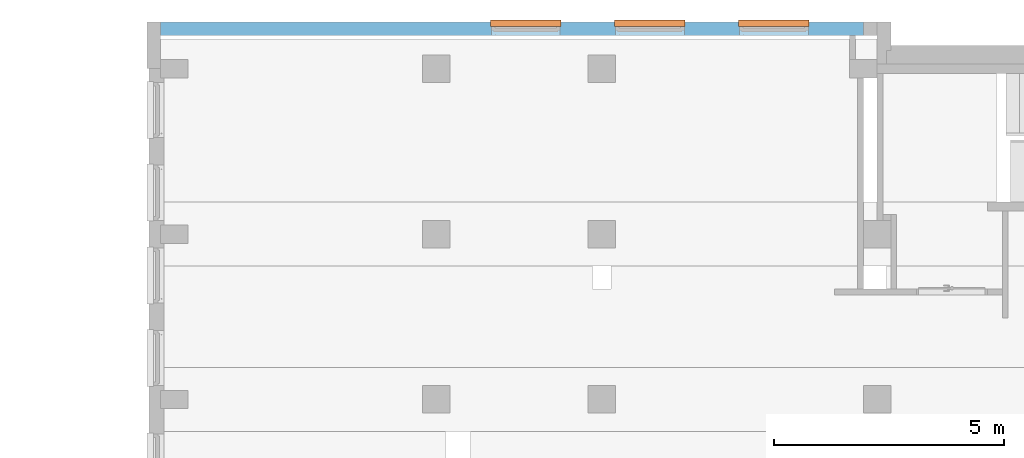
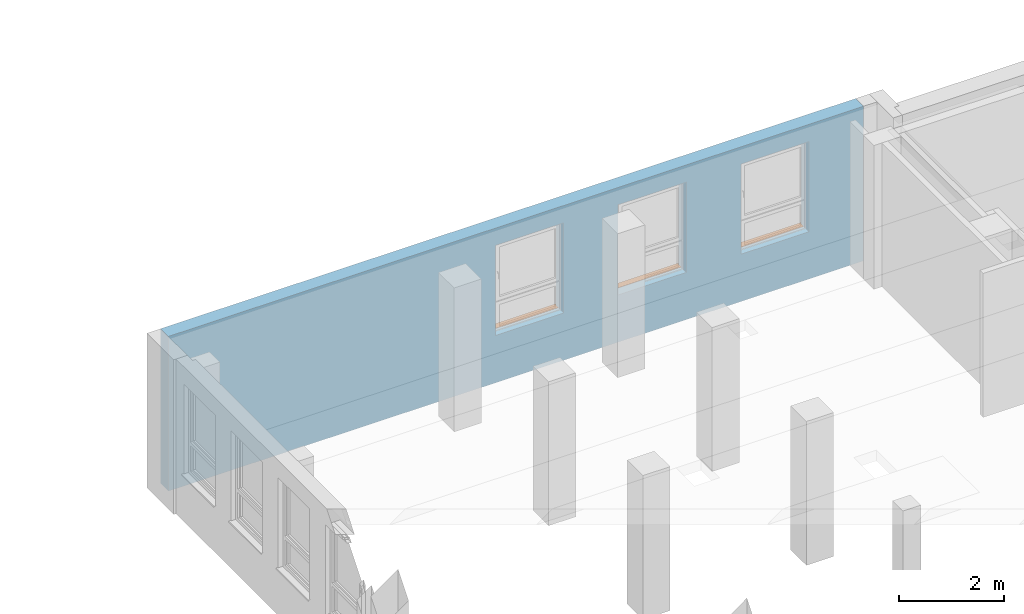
# One storey, part 47 of 50: 3 proxies, 3 openings, plus 1 element that does not belong to this part.
"""IFC4 building model written with IfcOpenShell, lengths in metres."""

from ifc_helpers import new_model, entity, si_unit, converted_unit, derived_unit, frame, frame_2d, origin, origin_with_axes, place, context, subcontext, project, spatial, polyline, rectangle, outline, extrude, faceted_brep, source, transform, mapped, material, layer, layer_set, layer_usage, element, fill, save


model = new_model("IFC4")

# Units and contexts
model_context = context("Model", 3, precision=1e-05, world=origin())
body_context = subcontext(model_context, "Body", "Model", "MODEL_VIEW")
ifc_project = project(units=[si_unit("LENGTHUNIT", "METRE"), si_unit("AREAUNIT", "SQUARE_METRE"), si_unit("VOLUMEUNIT", "CUBIC_METRE"), si_unit("MASSUNIT", "GRAM", prefix="KILO"), converted_unit("PLANEANGLEUNIT", "DEGREE", entity("IfcPlaneAngleMeasure", 0.0174532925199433), si_unit("PLANEANGLEUNIT", "RADIAN"), dimensions=[0, 0, 0, 0, 0, 0, 0]), derived_unit("THERMALTRANSMITTANCEUNIT", [(si_unit("POWERUNIT", "WATT"), 1), (si_unit("THERMODYNAMICTEMPERATUREUNIT", "KELVIN"), -1), (si_unit("LENGTHUNIT", "METRE"), -2)]), derived_unit("VOLUMETRICFLOWRATEUNIT", [(si_unit("LENGTHUNIT", "METRE"), 3), (converted_unit("TIMEUNIT", "hour", entity("IfcTimeMeasure", 3600.0), si_unit("TIMEUNIT", "SECOND"), dimensions=[0, 0, 1, 0, 0, 0, 0]), -1), (si_unit("LENGTHUNIT", "METRE"), -1)])], contexts=[model_context])

# Site, building, storey
site_placement = place(None, origin())
site = spatial("IfcSite", under=ifc_project, at=site_placement, Name="3. ASŘ", CompositionType="ELEMENT")
building_placement = place(site_placement, origin())
building = spatial("IfcBuilding", under=site, at=building_placement, Name="Pavilon C", CompositionType="ELEMENT")
storey_placement = place(building_placement, frame((0.0, 0.0, 3.6)))
storey = spatial("IfcBuildingStorey", under=building, at=storey_placement, Name="Půdorys 2.NP", CompositionType="ELEMENT", Elevation=3.6)

# Wall, openings, proxies
ifc_material_1 = material(Name="ZELEZOBETONOVÁ KCE")
ifc_layer = layer(ifc_material_1, 0.3)
ifc_layer_set = layer_set([ifc_layer])
ifc_layer_usage = layer_usage(ifc_layer_set, "AXIS2", "POSITIVE", 0.0)
wall_placement = place(storey_placement, frame((40.05, 33.42, -0.1), z_axis=(0.0, 0.0, 1.0), x_axis=(-1.0, 0.0, 0.0)))
wall = element("IfcWall", 1, at=wall_placement, inside=storey, material=ifc_layer_usage, Name="ZELEZOBETONOVÁ KCE", context=body_context, shape_type="SweptSolid", body=[
    extrude(rectangle(XDim=15.3, YDim=0.3, at=frame_2d((7.65, 0.15), x_axis=(1.0, 0.0))), origin_with_axes(), (0.0, 0.0, 1.0), 3.6),
])
opening_1_placement = place(wall_placement, frame((6.6, 0.0, 1.1), z_axis=(0.0, 1.0, 0.0), x_axis=(0.0, 0.0, 1.0)))
opening_1 = element("IfcOpeningElement", 2, at=opening_1_placement, cuts=wall, Name="Okenní otvor", ObjectType="Opening", context=body_context, shape_type="SweptSolid", body=[
    extrude(outline(polyline([(0.0, 1.5), (2.1, 1.5), (2.1, 0.0), (0.0, 0.0), (0.0, 1.5)])), origin_with_axes(), (0.0, 0.0, 1.0), 0.3),
])
opening_2_placement = place(wall_placement, frame((3.9, 0.0, 1.1), z_axis=(0.0, 1.0, 0.0), x_axis=(0.0, 0.0, 1.0)))
opening_2 = element("IfcOpeningElement", 3, at=opening_2_placement, cuts=wall, Name="Okenní otvor", ObjectType="Opening", context=body_context, shape_type="SweptSolid", body=[
    extrude(outline(polyline([(0.0, 1.5), (2.1, 1.5), (2.1, 0.0), (0.0, 0.0), (0.0, 1.5)])), origin_with_axes(), (0.0, 0.0, 1.0), 0.3),
])
opening_3_placement = place(wall_placement, frame((1.2, 0.0, 1.1), z_axis=(0.0, 1.0, 0.0), x_axis=(0.0, 0.0, 1.0)))
opening_3 = element("IfcOpeningElement", 4, at=opening_3_placement, cuts=wall, Name="Okenní otvor", ObjectType="Opening", context=body_context, shape_type="SweptSolid", body=[
    extrude(outline(polyline([(0.0, 1.5), (2.1, 1.5), (2.1, 0.0), (0.0, 0.0), (0.0, 1.5)])), origin_with_axes(), (0.0, 0.0, 1.0), 0.3),
])
ifc_material_2 = material(Name="PLECH")
shared_shape_1 = source(origin_with_axes(), body_context, "Body", "Brep", [
    faceted_brep([(0.0, 0.0, 0.0), (0.0, 0.1, 0.0), (0.0, 0.1, 0.005), (0.0, 0.0, 0.005), (1.5, 0.0, 0.0), (1.5, 0.0, 0.005), (1.5, 0.1, 0.005), (1.5, 0.1, 0.0), (-0.02, 0.0, 0.0), (-0.02, -0.035, 0.0), (1.52, -0.035, 0.0), (1.52, 0.0, 0.0), (1.52, 0.0, 0.005), (1.52, -0.04, 0.005), (-0.02, -0.04, 0.005), (-0.02, 0.0, 0.005), (-0.02, -0.04, -0.025), (-0.02, -0.035, -0.025), (1.52, -0.035, -0.025), (1.52, -0.04, -0.025)], [[[0, 1, 2, 3]], [[4, 5, 6, 7]], [[1, 0, 8, 9, 10, 11, 4, 7]], [[2, 1, 7, 6]], [[3, 2, 6, 5, 12, 13, 14, 15]], [[8, 15, 14, 16, 17, 9]], [[11, 10, 18, 19, 13, 12]], [[15, 8, 0, 3]], [[5, 4, 11, 12]], [[16, 14, 13, 19]], [[17, 16, 19, 18]], [[9, 17, 18, 10]]], orient=[[False], [False], [False], [False], [False], [False], [False], [False], [False], [False], [False], [False]]),
    faceted_brep([(-0.02, 0.0, 0.0), (-0.02, 0.1, 0.0), (-0.02, 0.1, 0.005), (-0.02, 0.0, 0.005), (0.0, 0.0, 0.0), (0.0, 0.0, 0.005), (0.0, 0.1, 0.005), (0.0, 0.1, 0.0)], [[[0, 1, 2, 3]], [[4, 5, 6, 7]], [[1, 0, 4, 7]], [[2, 1, 7, 6]], [[3, 2, 6, 5]], [[0, 3, 5, 4]]], orient=[[False], [False], [False], [False], [False], [False]]),
    faceted_brep([(1.5, 0.0, 0.0), (1.5, 0.1, 0.0), (1.5, 0.1, 0.005), (1.5, 0.0, 0.005), (1.52, 0.0, 0.0), (1.52, 0.0, 0.005), (1.52, 0.1, 0.005), (1.52, 0.1, 0.0)], [[[0, 1, 2, 3]], [[4, 5, 6, 7]], [[1, 0, 4, 7]], [[2, 1, 7, 6]], [[3, 2, 6, 5]], [[0, 3, 5, 4]]], orient=[[False], [False], [False], [False], [False], [False]]),
])
proxy_1_placement = place(opening_1_placement, frame((0.0, 0.0, 0.0), z_axis=(1.0, 0.0, 0.0), x_axis=(0.0, 1.0, 0.0)))
proxy_1 = element("IfcBuildingElementProxy", 5, at=proxy_1_placement, inside=storey, material=ifc_material_2, Name="Parapet vnější", context=body_context, shape_type="MappedRepresentation", body=[
    mapped(shared_shape_1, transform((0.0, 0.0, 0.0), x_axis=(1.0, 0.0, 0.0), y_axis=(0.0, 1.0, 0.0), z_axis=(0.0, 0.0, 1.0), scale=1.0)),
])
fill(opening_1, proxy_1)
ifc_material_3 = material(Name="PLECH")
shared_shape_2 = source(origin_with_axes(), body_context, "Body", "Brep", [
    faceted_brep([(0.0, 0.0, 0.0), (0.0, 0.1, 0.0), (0.0, 0.1, 0.005), (0.0, 0.0, 0.005), (1.5, 0.0, 0.0), (1.5, 0.0, 0.005), (1.5, 0.1, 0.005), (1.5, 0.1, 0.0), (-0.02, 0.0, 0.0), (-0.02, -0.035, 0.0), (1.52, -0.035, 0.0), (1.52, 0.0, 0.0), (1.52, 0.0, 0.005), (1.52, -0.04, 0.005), (-0.02, -0.04, 0.005), (-0.02, 0.0, 0.005), (-0.02, -0.04, -0.025), (-0.02, -0.035, -0.025), (1.52, -0.035, -0.025), (1.52, -0.04, -0.025)], [[[0, 1, 2, 3]], [[4, 5, 6, 7]], [[1, 0, 8, 9, 10, 11, 4, 7]], [[2, 1, 7, 6]], [[3, 2, 6, 5, 12, 13, 14, 15]], [[8, 15, 14, 16, 17, 9]], [[11, 10, 18, 19, 13, 12]], [[15, 8, 0, 3]], [[5, 4, 11, 12]], [[16, 14, 13, 19]], [[17, 16, 19, 18]], [[9, 17, 18, 10]]], orient=[[False], [False], [False], [False], [False], [False], [False], [False], [False], [False], [False], [False]]),
    faceted_brep([(-0.02, 0.0, 0.0), (-0.02, 0.1, 0.0), (-0.02, 0.1, 0.005), (-0.02, 0.0, 0.005), (0.0, 0.0, 0.0), (0.0, 0.0, 0.005), (0.0, 0.1, 0.005), (0.0, 0.1, 0.0)], [[[0, 1, 2, 3]], [[4, 5, 6, 7]], [[1, 0, 4, 7]], [[2, 1, 7, 6]], [[3, 2, 6, 5]], [[0, 3, 5, 4]]], orient=[[False], [False], [False], [False], [False], [False]]),
    faceted_brep([(1.5, 0.0, 0.0), (1.5, 0.1, 0.0), (1.5, 0.1, 0.005), (1.5, 0.0, 0.005), (1.52, 0.0, 0.0), (1.52, 0.0, 0.005), (1.52, 0.1, 0.005), (1.52, 0.1, 0.0)], [[[0, 1, 2, 3]], [[4, 5, 6, 7]], [[1, 0, 4, 7]], [[2, 1, 7, 6]], [[3, 2, 6, 5]], [[0, 3, 5, 4]]], orient=[[False], [False], [False], [False], [False], [False]]),
])
proxy_2_placement = place(opening_2_placement, frame((0.0, 0.0, 0.0), z_axis=(1.0, 0.0, 0.0), x_axis=(0.0, 1.0, 0.0)))
proxy_2 = element("IfcBuildingElementProxy", 6, at=proxy_2_placement, inside=storey, material=ifc_material_3, Name="Parapet vnější", context=body_context, shape_type="MappedRepresentation", body=[
    mapped(shared_shape_2, transform((0.0, 0.0, 0.0), x_axis=(1.0, 0.0, 0.0), y_axis=(0.0, 1.0, 0.0), z_axis=(0.0, 0.0, 1.0), scale=1.0)),
])
fill(opening_2, proxy_2)
ifc_material_4 = material(Name="PLECH")
shared_shape_3 = source(origin_with_axes(), body_context, "Body", "Brep", [
    faceted_brep([(0.0, 0.0, 0.0), (0.0, 0.1, 0.0), (0.0, 0.1, 0.005), (0.0, 0.0, 0.005), (1.5, 0.0, 0.0), (1.5, 0.0, 0.005), (1.5, 0.1, 0.005), (1.5, 0.1, 0.0), (-0.02, 0.0, 0.0), (-0.02, -0.035, 0.0), (1.52, -0.035, 0.0), (1.52, 0.0, 0.0), (1.52, 0.0, 0.005), (1.52, -0.04, 0.005), (-0.02, -0.04, 0.005), (-0.02, 0.0, 0.005), (-0.02, -0.04, -0.025), (-0.02, -0.035, -0.025), (1.52, -0.035, -0.025), (1.52, -0.04, -0.025)], [[[0, 1, 2, 3]], [[4, 5, 6, 7]], [[1, 0, 8, 9, 10, 11, 4, 7]], [[2, 1, 7, 6]], [[3, 2, 6, 5, 12, 13, 14, 15]], [[8, 15, 14, 16, 17, 9]], [[11, 10, 18, 19, 13, 12]], [[15, 8, 0, 3]], [[5, 4, 11, 12]], [[16, 14, 13, 19]], [[17, 16, 19, 18]], [[9, 17, 18, 10]]], orient=[[False], [False], [False], [False], [False], [False], [False], [False], [False], [False], [False], [False]]),
    faceted_brep([(-0.02, 0.0, 0.0), (-0.02, 0.1, 0.0), (-0.02, 0.1, 0.005), (-0.02, 0.0, 0.005), (0.0, 0.0, 0.0), (0.0, 0.0, 0.005), (0.0, 0.1, 0.005), (0.0, 0.1, 0.0)], [[[0, 1, 2, 3]], [[4, 5, 6, 7]], [[1, 0, 4, 7]], [[2, 1, 7, 6]], [[3, 2, 6, 5]], [[0, 3, 5, 4]]], orient=[[False], [False], [False], [False], [False], [False]]),
    faceted_brep([(1.5, 0.0, 0.0), (1.5, 0.1, 0.0), (1.5, 0.1, 0.005), (1.5, 0.0, 0.005), (1.52, 0.0, 0.0), (1.52, 0.0, 0.005), (1.52, 0.1, 0.005), (1.52, 0.1, 0.0)], [[[0, 1, 2, 3]], [[4, 5, 6, 7]], [[1, 0, 4, 7]], [[2, 1, 7, 6]], [[3, 2, 6, 5]], [[0, 3, 5, 4]]], orient=[[False], [False], [False], [False], [False], [False]]),
])
proxy_3_placement = place(opening_3_placement, frame((0.0, 0.0, 0.0), z_axis=(1.0, 0.0, 0.0), x_axis=(0.0, 1.0, 0.0)))
proxy_3 = element("IfcBuildingElementProxy", 7, at=proxy_3_placement, inside=storey, material=ifc_material_4, Name="Parapet vnější", context=body_context, shape_type="MappedRepresentation", body=[
    mapped(shared_shape_3, transform((0.0, 0.0, 0.0), x_axis=(1.0, 0.0, 0.0), y_axis=(0.0, 1.0, 0.0), z_axis=(0.0, 0.0, 1.0), scale=1.0)),
])
fill(opening_3, proxy_3)

save(model, "model.ifc")
